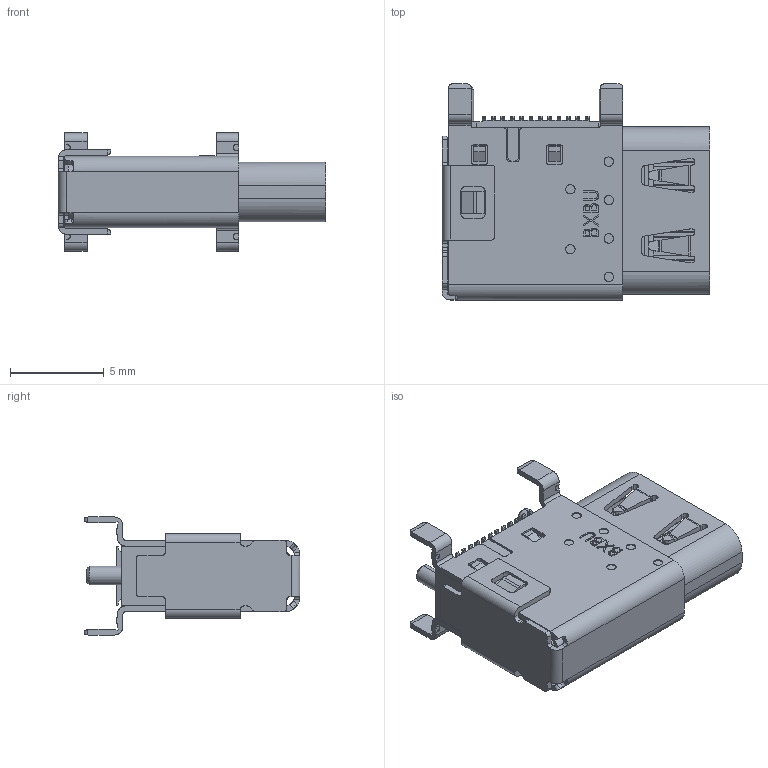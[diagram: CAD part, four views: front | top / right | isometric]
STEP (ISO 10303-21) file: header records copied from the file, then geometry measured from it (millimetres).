
FILE_DESCRIPTION((' '),'2;1');
FILE_NAME( 'U5146-24PNT14.3L.stp', '2026-05-11T17:20:00', (' '), ('--- ---'), ' V2026.1 Dec 31 2025', ' 2026 (c)', ' ');
FILE_SCHEMA(('AP242_MANAGED_MODEL_BASED_3D_ENGINEERING_MIM_LF { 1 0 10303 442 1 1 4 }'));
Length unit declared in the file: millimetre
Products named in the file (8): INT_SHELL; MANIFOLD_SOLID_BREP_86510_1_1_1; TOP_ASM_1_ASM_110_ASM; MAIN_1_4; BOT_TERMINAL_21_ASM_1_ASM_1_ASM_ASM; BOTTOM_ASM_1_ASM_29_ASM; U5146-24PNT14.3L(2); U5146-24PNT14.3L1
Assembly tree (8 placements, depth 5):
  U5146-24PNT14.3L1
    U5146-24PNT14.3L(2)
      INT_SHELL
      TOP_ASM_1_ASM_110_ASM
        MANIFOLD_SOLID_BREP_86510_1_1_1
      MAIN_1_4
      BOTTOM_ASM_1_ASM_29_ASM
        BOT_TERMINAL_21_ASM_1_ASM_1_ASM_ASM
          MANIFOLD_SOLID_BREP_86510_1_1_1
Bounding box: 14.3 x 11.53 x 6.3 mm (x, y, z)
Volume: 364.3 mm3; surface area: 1476.7 mm2
Topology: 4 solids, 8 shells, 1829 faces, 5199 edges, 3416 vertices
Faces by surface type: plane 1321, cylinder 439, bspline 51, cone 18
Entity records: 62125 total; most frequent: CARTESIAN_POINT 16800, ORIENTED_EDGE 10254, DIRECTION 7958, EDGE_CURVE 5127, VECTOR 3980, LINE 3980, VERTEX_POINT 3368, AXIS2_PLACEMENT_3D 1989
